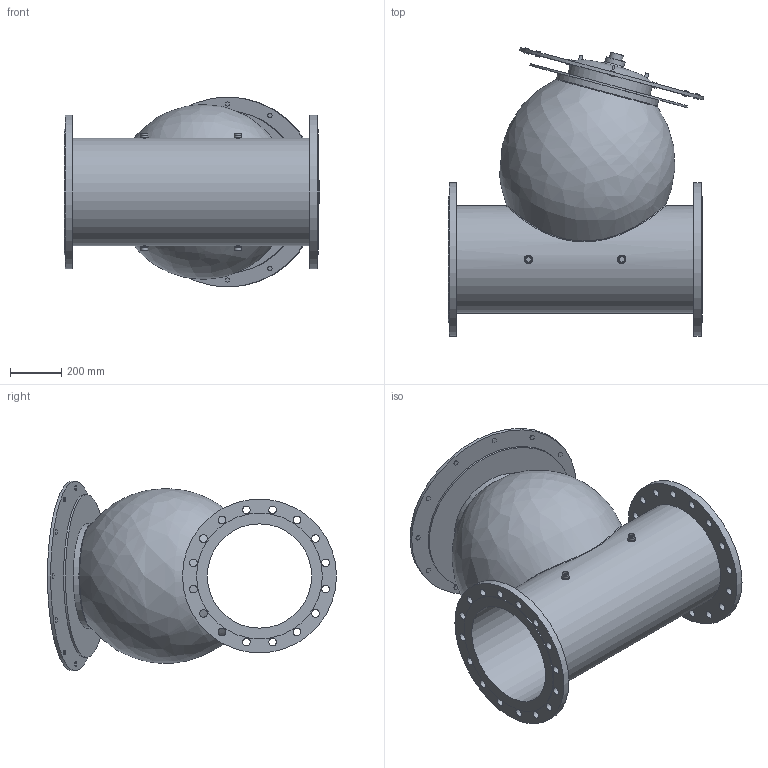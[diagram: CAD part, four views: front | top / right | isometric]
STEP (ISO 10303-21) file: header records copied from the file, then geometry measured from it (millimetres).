
FILE_DESCRIPTION(/* description */ ('VIC FP VALVE PRESSURE RELIEF SERIES 867-7UF (PN16)','CAx-IF Rec.Pracs.---Representation and Presentation of Product Manufacturing Information (PMI)---4.0---2014-10-13'),/* implementation_level */ '2;1');
FILE_NAME(/* name */ 'C:\Series 867-7UF\Series 867-7UF final\pn16\step\Victaulic_FP-Bermad_Valve Pressure Relief_Series 867-7UF (PN16)\Victaulic_FP-Bermad_Valve Pressure Relief_Series 867-7UF (PN16)_16 (400).stp',/* time_stamp */ '2021-09-02T19:17:30+06:00',/* author */ ('kkamble'),/* organization */ ('Victaulic'),/* preprocessor_version */ 'ST-DEVELOPER v17.2',/* originating_system */ 'Autodesk Inventor 2019',/* authorisation */ '');
FILE_SCHEMA (('AP242_MANAGED_MODEL_BASED_3D_ENGINEERING_MIM_LF { 1 0 10303 442 1 1 4 }'));
Length unit declared in the file: inch
Products named in the file (1): 867-7UF-16.0
Bounding box: 997.36 x 1125.92 x 740.16 mm (x, y, z)
Volume: 181393634.4 mm3; surface area: 5450318.4 mm2
Topology: 1 solids, 1 shells, 269 faces, 689 edges, 467 vertices
Faces by surface type: plane 208, cylinder 52, bspline 7, torus 2
Full cylindrical faces by diameter (mm): 21.336 x4, 26.873 x4, 30 x32, 50.8 x1, 76.2 x1, 330.2 x1, 406.4 x2, 419.1 x1, 489.999 x2, 599.948 x2, 635 x1, 740.156 x1
Entity records: 9660 total; most frequent: CARTESIAN_POINT 2487, ORIENTED_EDGE 1386, DIRECTION 1346, EDGE_CURVE 693, LINE 520, VECTOR 520, VERTEX_POINT 471, AXIS2_PLACEMENT_3D 413
